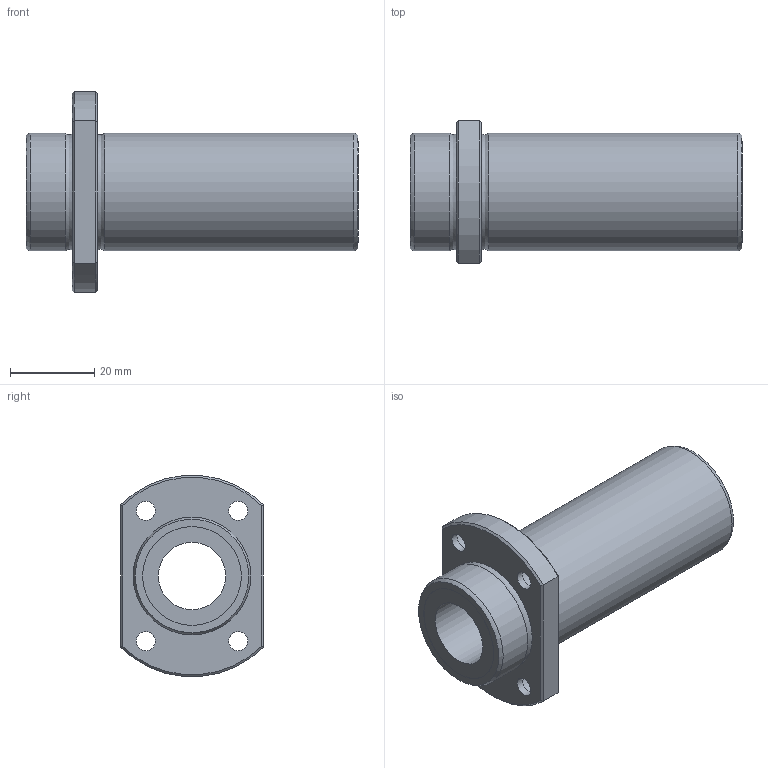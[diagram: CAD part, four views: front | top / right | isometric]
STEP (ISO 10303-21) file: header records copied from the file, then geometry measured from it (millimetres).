
FILE_DESCRIPTION((''),'2;1');
FILE_NAME('D:\製品 (図面)\カタログ用3D\メンテナンスフリー関連\STEP形式\LFDTB-MF\LFDTB16MF.stp','2010-06-01T15:46:24',('Tsuchiya'),(''),'Autodesk Inventor 10','Autodesk Inventor 10','');
FILE_SCHEMA(('AUTOMOTIVE_DESIGN { 1 0 10303 214 1 1 1 1 }'));
Length unit declared in the file: millimetre
Products named in the file (1): LFDTB16MF
Bounding box: 79 x 34 x 47.82 mm (x, y, z)
Volume: 36779.5 mm3; surface area: 14124.5 mm2
Topology: 1 solids, 1 shells, 39 faces, 75 edges, 46 vertices
Faces by surface type: bspline 14, plane 12, cylinder 7, cone 4, torus 2
Full cylindrical faces by diameter (mm): 16 x1, 23.5 x2, 28 x2
Entity records: 1177 total; most frequent: CARTESIAN_POINT 440, DIRECTION 140, ORIENTED_EDGE 116, EDGE_LOOP 74, AXIS2_PLACEMENT_3D 64, EDGE_CURVE 58, VERTEX_POINT 46, FACE_OUTER_BOUND 39
